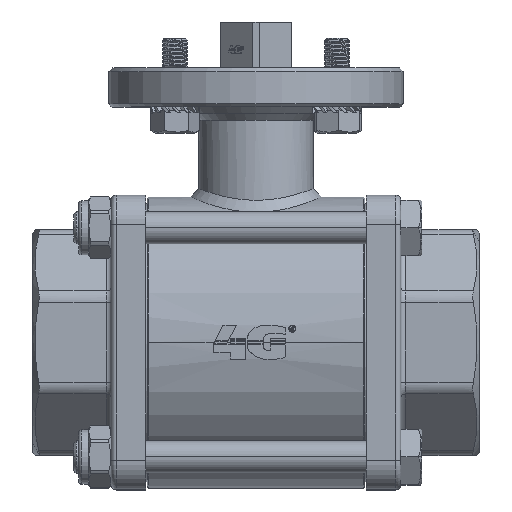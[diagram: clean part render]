
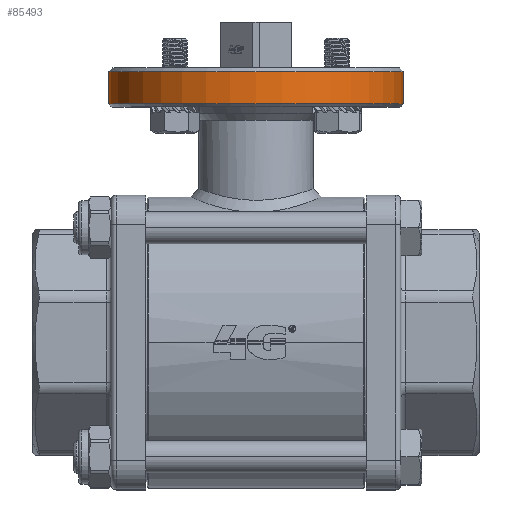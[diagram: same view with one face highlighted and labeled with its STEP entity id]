
A CAD part, top view. The second image highlights one B-rep face of the part: STEP entity #85493.
In plain terms, the highlighted cylindrical face has radius 45 mm (diameter 90 mm), a partial arc.
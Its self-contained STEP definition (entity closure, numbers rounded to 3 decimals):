
#18547=CARTESIAN_POINT('',(0.,73.,0.));
#18548=DIRECTION('',(0.,1.,0.));
#18549=DIRECTION('',(-1.,0.,0.));
#18550=AXIS2_PLACEMENT_3D('',#18547,#18548,#18549);
#18555=DIRECTION('',(0.,1.,0.));
#18556=VECTOR('',#18555,9.8);
#18557=CARTESIAN_POINT('',(-45.,73.,
0.));
#18558=LINE('',#18557,#18556);
#18562=CARTESIAN_POINT('',(0.,82.8,0.));
#18563=DIRECTION('',(0.,1.,0.));
#18564=DIRECTION('',(-1.,0.,0.));
#18565=AXIS2_PLACEMENT_3D('',#18562,#18563,#18564);
#18570=DIRECTION('',(0.,1.,0.));
#18571=VECTOR('',#18570,9.8);
#18572=CARTESIAN_POINT('',(45.,73.,
0.));
#18573=LINE('',#18572,#18571);
#67840=CARTESIAN_POINT('',(45.,82.8,0.));
#67842=VERTEX_POINT('',#67840);
#67848=CARTESIAN_POINT('',(-45.,82.8,0.));
#67849=VERTEX_POINT('',#67848);
#67854=CARTESIAN_POINT('',(-45.,73.,0.));
#67855=CARTESIAN_POINT('',(45.,73.,0.));
#67856=VERTEX_POINT('',#67854);
#67857=VERTEX_POINT('',#67855);
#85481=CARTESIAN_POINT('',(0.,69.3,0.));
#85482=DIRECTION('',(0.,1.,0.));
#85483=DIRECTION('',(1.,0.,0.));
#85484=AXIS2_PLACEMENT_3D('',#85481,#85482,#85483);
#85485=CYLINDRICAL_SURFACE('',#85484,45.);
#85486=ORIENTED_EDGE('',*,*,#85472,.F.);
#85487=ORIENTED_EDGE('',*,*,#85447,.T.);
#85489=ORIENTED_EDGE('',*,*,#85488,.T.);
#85490=ORIENTED_EDGE('',*,*,#85442,.F.);
#85491=EDGE_LOOP('',(#85486,#85487,#85489,#85490));
#85492=FACE_OUTER_BOUND('',#85491,.F.);
#85493=ADVANCED_FACE('',(#85492),#85485,.T.);
#18551=CIRCLE('',#18550,45.);
#18566=CIRCLE('',#18565,45.);
#85442=EDGE_CURVE('',#67857,#67842,#18573,.T.);
#85447=EDGE_CURVE('',#67856,#67849,#18558,.T.);
#85472=EDGE_CURVE('',#67856,#67857,#18551,.T.);
#85488=EDGE_CURVE('',#67849,#67842,#18566,.T.);
